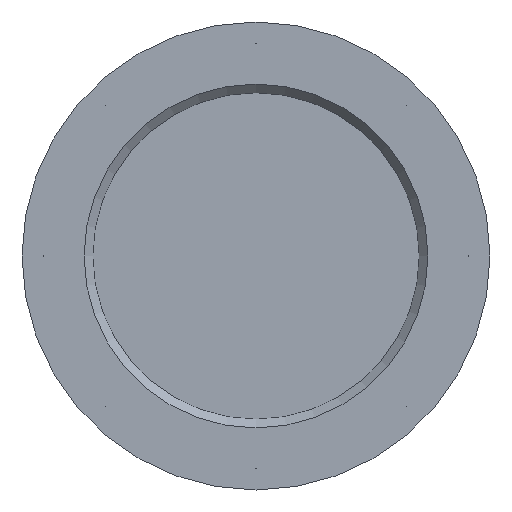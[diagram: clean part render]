
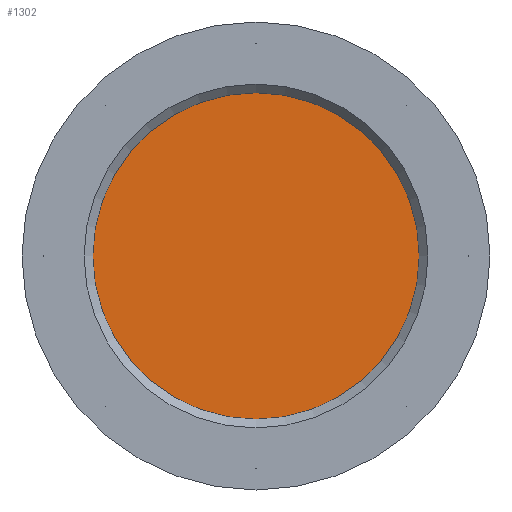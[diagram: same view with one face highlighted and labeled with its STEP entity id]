
A CAD part, front view. The second image highlights one B-rep face of the part: STEP entity #1302.
In plain terms, the highlighted planar face has unit normal (0, -1, 0).
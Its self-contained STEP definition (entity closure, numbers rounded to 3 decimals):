
#175=PLANE('',#1688);
#212=ORIENTED_EDGE('',*,*,#492,.T.);
#492=EDGE_CURVE('',#632,#632,#754,.F.);
#632=VERTEX_POINT('',#2368);
#754=CIRCLE('',#1689,86.5);
#858=EDGE_LOOP('',(#212));
#1062=FACE_BOUND('',#858,.T.);
#1302=ADVANCED_FACE('',(#1062),#175,.F.);
#1688=AXIS2_PLACEMENT_3D('',#2366,#1909,#1910);
#1689=AXIS2_PLACEMENT_3D('',#2367,#1911,#1912);
#1909=DIRECTION('',(0.,1.,0.));
#1910=DIRECTION('',(0.,0.,1.));
#1911=DIRECTION('',(0.,1.,0.));
#1912=DIRECTION('',(0.,0.,1.));
#2366=CARTESIAN_POINT('',(0.,0.,0.));
#2367=CARTESIAN_POINT('',(0.,0.,0.));
#2368=CARTESIAN_POINT('',(0.,0.,86.5));
